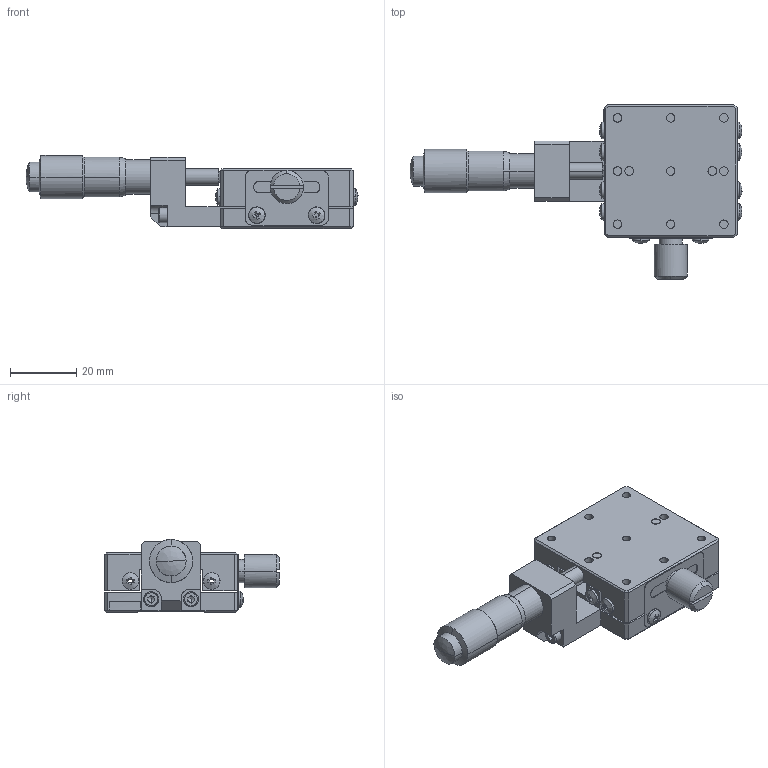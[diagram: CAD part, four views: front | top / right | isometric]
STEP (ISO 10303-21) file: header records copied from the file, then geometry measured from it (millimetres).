
FILE_DESCRIPTION (( 'STEP AP214' ), '1' );
FILE_NAME ('X40-C.STEP', '2022-09-04T02:33:59', ( '' ), ( '' ), 'SwSTEP 2.0', 'SolidWorks 2017', '' );
FILE_SCHEMA (( 'AUTOMOTIVE_DESIGN' ));
Length unit declared in the file: millimetre
Products named in the file (1): X40-C
Bounding box: 99.95 x 52.6 x 22 mm (x, y, z)
Surface area: 16239.9 mm2 (no closed solid volume)
Topology: 0 solids, 10 shells, 364 faces, 1104 edges, 738 vertices
Faces by surface type: plane 210, cylinder 69, cone 67, bspline 18
Entity records: 14500 total; most frequent: CARTESIAN_POINT 5390, ORIENTED_EDGE 1893, DIRECTION 1652, EDGE_CURVE 1078, VERTEX_POINT 738, AXIS2_PLACEMENT_3D 561, VECTOR 530, LINE 530
